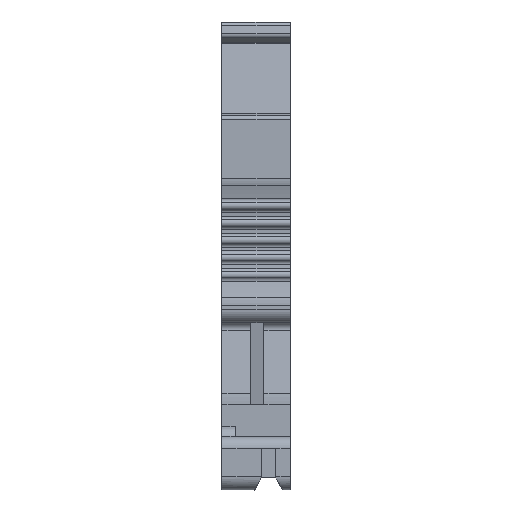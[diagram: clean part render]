
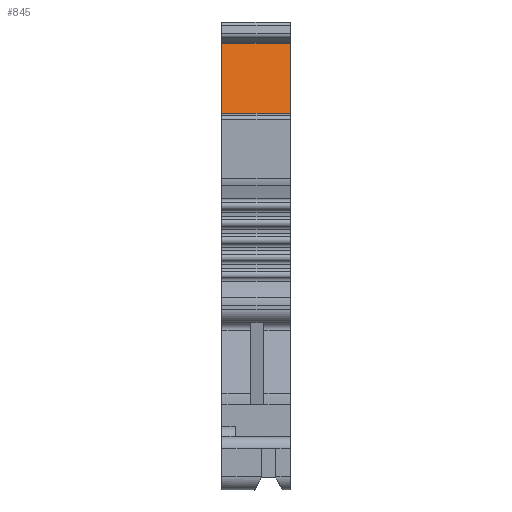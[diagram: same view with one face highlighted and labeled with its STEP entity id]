
A CAD part, left-side view. The second image highlights one B-rep face of the part: STEP entity #845.
In plain terms, the highlighted planar face has unit normal (-0.985, 0, 0.174).
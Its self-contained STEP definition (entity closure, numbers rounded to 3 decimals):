
#376=PLANE('',#14801);
#845=ADVANCED_FACE('',(#1866),#376,.F.);
#1866=FACE_OUTER_BOUND('',#2624,.T.);
#2624=EDGE_LOOP('',(#4527,#4528,#4529,#4530));
#4527=ORIENTED_EDGE('',*,*,#10049,.T.);
#4528=ORIENTED_EDGE('',*,*,#10050,.T.);
#4529=ORIENTED_EDGE('',*,*,#10051,.T.);
#4530=ORIENTED_EDGE('',*,*,#9802,.T.);
#8368=VERTEX_POINT('',#20420);
#8369=VERTEX_POINT('',#20422);
#8572=VERTEX_POINT('',#20913);
#8573=VERTEX_POINT('',#20917);
#9802=EDGE_CURVE('',#8369,#8368,#11852,.T.);
#10049=EDGE_CURVE('',#8368,#8572,#11980,.T.);
#10050=EDGE_CURVE('',#8572,#8573,#11981,.T.);
#10051=EDGE_CURVE('',#8573,#8369,#11982,.T.);
#11852=LINE('',#20421,#13238);
#11980=LINE('',#20914,#13366);
#11981=LINE('',#20916,#13367);
#11982=LINE('',#20918,#13368);
#13238=VECTOR('',#16257,1.);
#13366=VECTOR('',#16707,1.);
#13367=VECTOR('',#16710,1.);
#13368=VECTOR('',#16711,1.);
#14801=AXIS2_PLACEMENT_3D('',#20919,#16712,#16713);
#16257=DIRECTION('',(-0.174,0.,-0.985));
#16707=DIRECTION('',(0.,-1.,0.));
#16710=DIRECTION('',(0.174,0.,0.985));
#16711=DIRECTION('',(0.,1.,0.));
#16712=DIRECTION('',(0.985,0.,-0.174));
#16713=DIRECTION('',(0.174,0.,0.985));
#20420=CARTESIAN_POINT('',(-57.111,0.,-7.317));
#20421=CARTESIAN_POINT('',(-56.087,0.,-1.506));
#20422=CARTESIAN_POINT('',(-56.087,0.,-1.506));
#20913=CARTESIAN_POINT('',(-57.111,-5.15,-7.317));
#20914=CARTESIAN_POINT('',(-57.111,0.,-7.317));
#20916=CARTESIAN_POINT('',(-57.111,-5.15,-7.317));
#20917=CARTESIAN_POINT('',(-56.087,-5.15,-1.506));
#20918=CARTESIAN_POINT('',(-56.087,-5.15,-1.506));
#20919=CARTESIAN_POINT('',(-56.035,-5.308,-1.216));
